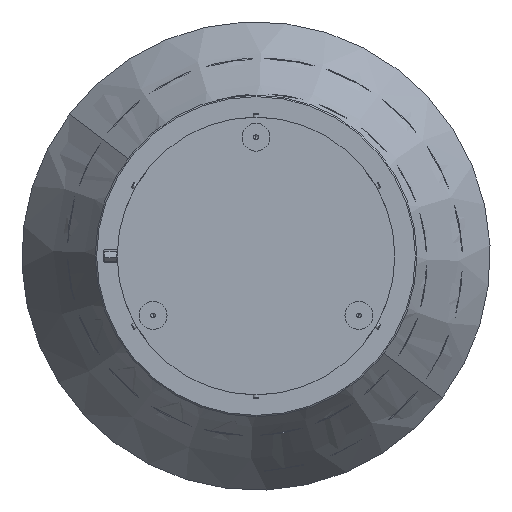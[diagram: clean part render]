
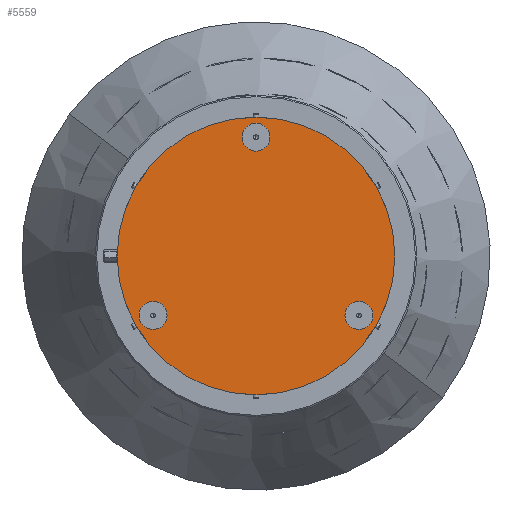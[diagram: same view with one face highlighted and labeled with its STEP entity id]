
A CAD part, front view. The second image highlights one B-rep face of the part: STEP entity #5559.
In plain terms, the highlighted planar face has unit normal (0, -1, 0).
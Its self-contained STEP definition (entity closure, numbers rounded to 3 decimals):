
#375 = CARTESIAN_POINT ( 'NONE',  ( -147.224, 0., -85. ) ) ;
#468 = VERTEX_POINT ( 'NONE', #1798 ) ;
#474 = CARTESIAN_POINT ( 'NONE',  ( 147.224, 0., -85. ) ) ;
#478 = DIRECTION ( 'NONE',  ( 0., -1., 0. ) ) ;
#495 = VERTEX_POINT ( 'NONE', #10192 ) ;
#556 = CARTESIAN_POINT ( 'NONE',  ( 0., 0., 170. ) ) ;
#570 = VERTEX_POINT ( 'NONE', #6806 ) ;
#592 = VERTEX_POINT ( 'NONE', #6967 ) ;
#641 = DIRECTION ( 'NONE',  ( 0., -1., 0. ) ) ;
#654 = DIRECTION ( 'NONE',  ( 0., -1., 0. ) ) ;
#798 = CARTESIAN_POINT ( 'NONE',  ( 0., 0., 150. ) ) ;
#969 = ORIENTED_EDGE ( 'NONE', *, *, #2311, .T. ) ;
#1500 = DIRECTION ( 'NONE',  ( 0., 0., 1. ) ) ;
#1507 = DIRECTION ( 'NONE',  ( 0., 0., 1. ) ) ;
#1676 = AXIS2_PLACEMENT_3D ( 'NONE', #3797, #9041, #3758 ) ;
#1740 = ORIENTED_EDGE ( 'NONE', *, *, #10046, .F. ) ;
#1798 = CARTESIAN_POINT ( 'NONE',  ( 147.224, 0., -65. ) ) ;
#1975 = EDGE_CURVE ( 'NONE', #11131, #9524, #5898, .T. ) ;
#2189 = DIRECTION ( 'NONE',  ( 0., 0., 1. ) ) ;
#2222 = CIRCLE ( 'NONE', #5579, 20. ) ;
#2311 = EDGE_CURVE ( 'NONE', #495, #592, #6678, .T. ) ;
#2379 = VERTEX_POINT ( 'NONE', #5802 ) ;
#2456 = CARTESIAN_POINT ( 'NONE',  ( -147.224, 0., -85. ) ) ;
#2703 = CIRCLE ( 'NONE', #7380, 20. ) ;
#2818 = AXIS2_PLACEMENT_3D ( 'NONE', #4195, #654, #1500 ) ;
#3003 = CARTESIAN_POINT ( 'NONE',  ( 0., 0., 190. ) ) ;
#3702 = EDGE_CURVE ( 'NONE', #10278, #2379, #2703, .T. ) ;
#3758 = DIRECTION ( 'NONE',  ( 0., 0., 1. ) ) ;
#3797 = CARTESIAN_POINT ( 'NONE',  ( 147.224, 0., -85. ) ) ;
#3840 = DIRECTION ( 'NONE',  ( 0., 0., -1. ) ) ;
#3998 = FACE_BOUND ( 'NONE', #10214, .T. ) ;
#4005 = EDGE_LOOP ( 'NONE', ( #969, #7224 ) ) ;
#4195 = CARTESIAN_POINT ( 'NONE',  ( 0., 0., 170. ) ) ;
#4211 = DIRECTION ( 'NONE',  ( 0., 0., 1. ) ) ;
#4417 = FACE_OUTER_BOUND ( 'NONE', #4005, .T. ) ;
#4457 = ORIENTED_EDGE ( 'NONE', *, *, #1975, .F. ) ;
#4921 = CARTESIAN_POINT ( 'NONE',  ( 0., 0., 0. ) ) ;
#5243 = CARTESIAN_POINT ( 'NONE',  ( 0., 0., 0. ) ) ;
#5323 = EDGE_CURVE ( 'NONE', #570, #468, #5391, .T. ) ;
#5391 = CIRCLE ( 'NONE', #6043, 20. ) ;
#5559 = ADVANCED_FACE ( 'NONE', ( #8450, #6761, #3998, #4417 ), #7931, .F. ) ;
#5579 = AXIS2_PLACEMENT_3D ( 'NONE', #556, #641, #4211 ) ;
#5780 = EDGE_CURVE ( 'NONE', #592, #495, #5927, .T. ) ;
#5802 = CARTESIAN_POINT ( 'NONE',  ( -147.224, 0., -65. ) ) ;
#5898 = CIRCLE ( 'NONE', #2818, 20. ) ;
#5927 = CIRCLE ( 'NONE', #10886, 198.5 ) ;
#6043 = AXIS2_PLACEMENT_3D ( 'NONE', #474, #6560, #7544 ) ;
#6055 = EDGE_LOOP ( 'NONE', ( #7621, #9518 ) ) ;
#6297 = ORIENTED_EDGE ( 'NONE', *, *, #3702, .F. ) ;
#6319 = AXIS2_PLACEMENT_3D ( 'NONE', #2456, #10282, #1507 ) ;
#6458 = ORIENTED_EDGE ( 'NONE', *, *, #9428, .F. ) ;
#6560 = DIRECTION ( 'NONE',  ( 0., -1., 0. ) ) ;
#6678 = CIRCLE ( 'NONE', #7748, 198.5 ) ;
#6761 = FACE_BOUND ( 'NONE', #10861, .T. ) ;
#6806 = CARTESIAN_POINT ( 'NONE',  ( 147.224, 0., -105. ) ) ;
#6967 = CARTESIAN_POINT ( 'NONE',  ( 0., 0., 198.5 ) ) ;
#6980 = CIRCLE ( 'NONE', #1676, 20. ) ;
#7224 = ORIENTED_EDGE ( 'NONE', *, *, #5780, .T. ) ;
#7380 = AXIS2_PLACEMENT_3D ( 'NONE', #375, #9124, #2189 ) ;
#7544 = DIRECTION ( 'NONE',  ( 0., 0., 1. ) ) ;
#7621 = ORIENTED_EDGE ( 'NONE', *, *, #7790, .F. ) ;
#7698 = CARTESIAN_POINT ( 'NONE',  ( -147.224, 0., -105. ) ) ;
#7748 = AXIS2_PLACEMENT_3D ( 'NONE', #8393, #9218, #3840 ) ;
#7790 = EDGE_CURVE ( 'NONE', #468, #570, #6980, .T. ) ;
#7931 = PLANE ( 'NONE',  #9786 ) ;
#8393 = CARTESIAN_POINT ( 'NONE',  ( 0., 0., 0. ) ) ;
#8450 = FACE_BOUND ( 'NONE', #6055, .T. ) ;
#8801 = DIRECTION ( 'NONE',  ( 0., 1., 0. ) ) ;
#9041 = DIRECTION ( 'NONE',  ( 0., -1., 0. ) ) ;
#9124 = DIRECTION ( 'NONE',  ( 0., -1., 0. ) ) ;
#9218 = DIRECTION ( 'NONE',  ( 0., -1., 0. ) ) ;
#9257 = DIRECTION ( 'NONE',  ( 0., 0., -1. ) ) ;
#9428 = EDGE_CURVE ( 'NONE', #9524, #11131, #2222, .T. ) ;
#9518 = ORIENTED_EDGE ( 'NONE', *, *, #5323, .F. ) ;
#9524 = VERTEX_POINT ( 'NONE', #798 ) ;
#9726 = CIRCLE ( 'NONE', #6319, 20. ) ;
#9786 = AXIS2_PLACEMENT_3D ( 'NONE', #5243, #8801, #10388 ) ;
#10046 = EDGE_CURVE ( 'NONE', #2379, #10278, #9726, .T. ) ;
#10192 = CARTESIAN_POINT ( 'NONE',  ( 0., 0., -198.5 ) ) ;
#10214 = EDGE_LOOP ( 'NONE', ( #4457, #6458 ) ) ;
#10278 = VERTEX_POINT ( 'NONE', #7698 ) ;
#10282 = DIRECTION ( 'NONE',  ( 0., -1., 0. ) ) ;
#10388 = DIRECTION ( 'NONE',  ( 0., 0., 1. ) ) ;
#10861 = EDGE_LOOP ( 'NONE', ( #1740, #6297 ) ) ;
#10886 = AXIS2_PLACEMENT_3D ( 'NONE', #4921, #478, #9257 ) ;
#11131 = VERTEX_POINT ( 'NONE', #3003 ) ;
